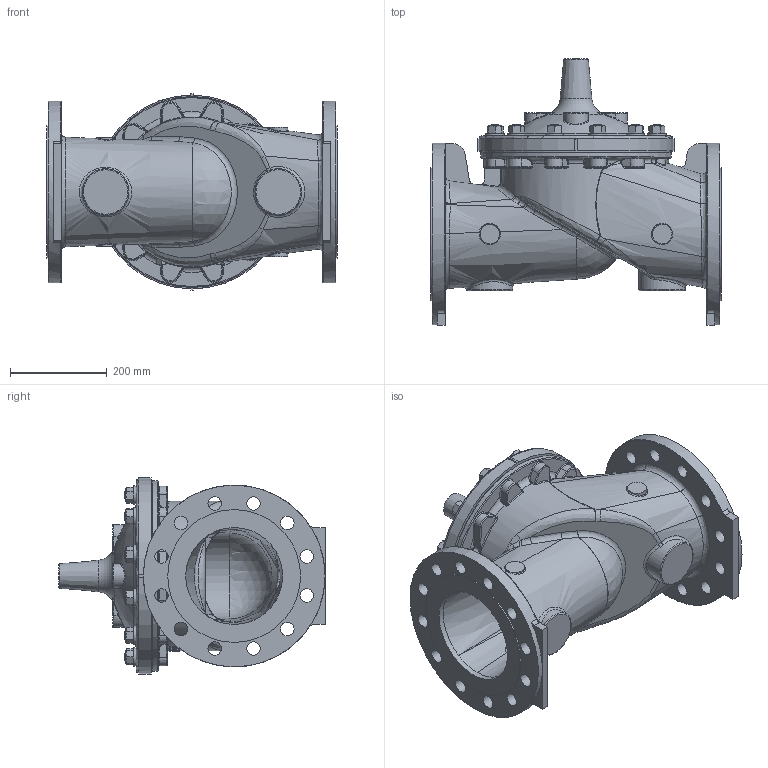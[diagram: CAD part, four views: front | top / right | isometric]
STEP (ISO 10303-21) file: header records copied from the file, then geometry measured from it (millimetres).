
FILE_DESCRIPTION(/* description */ (''),/* implementation_level */ '2;1');
FILE_NAME(/* name */ 'G:\Doc_Liberes\SymbolesCAD\Modeles_3D\FichierSTP\VanneDeBase\NGE200-25RF.stp',/* time_stamp */ '2023-08-18T11:23:55+02:00',/* author */ ('theo'),/* organization */ (''),/* preprocessor_version */ 'ST-DEVELOPER v18.1',/* originating_system */ 'Autodesk Inventor 2022',/* authorisation */ '');
FILE_SCHEMA (('AUTOMOTIVE_DESIGN { 1 0 10303 214 3 1 1 }'));
Products named in the file (1): nge200-25_Simplifier_1
Bounding box: 600 x 550.06 x 406 mm (x, y, z)
Volume: 16264920.6 mm3; surface area: 1942279.4 mm2
Topology: 1 solids, 1 shells, 2030 faces, 5203 edges, 3267 vertices
Faces by surface type: plane 719, bspline 534, cone 386, cylinder 254, torus 125, sphere 12
Full cylindrical faces by diameter (mm): 19.05 x24, 22 x12, 28 x24, 37.287 x12, 40 x2, 55.6 x1, 65 x1, 96 x1, 167.83 x1, 195 x1, 200 x2, 200.28 x1, 200.3 x1, 274 x2, 295 x1, 375 x2, 387.05 x1, 387.3 x1, 394 x1
Entity records: 79833 total; most frequent: CARTESIAN_POINT 34541, ORIENTED_EDGE 10374, DIRECTION 8188, EDGE_CURVE 5187, AXIS2_PLACEMENT_3D 3342, VERTEX_POINT 3267, EDGE_LOOP 2212, FACE_OUTER_BOUND 2030
